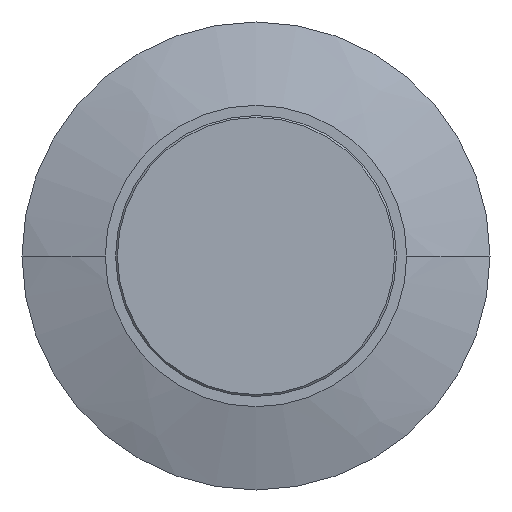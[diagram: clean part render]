
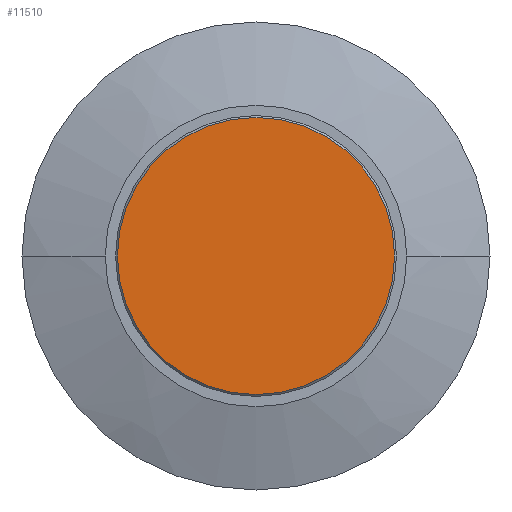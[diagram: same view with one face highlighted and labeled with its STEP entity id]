
A CAD part, left-side view. The second image highlights one B-rep face of the part: STEP entity #11510.
In plain terms, the highlighted planar face has unit normal (-1, 0, 0).
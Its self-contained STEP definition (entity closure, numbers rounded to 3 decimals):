
#11460=CARTESIAN_POINT('',(-18.21,0.,
0.));
#11461=DIRECTION('',(1.,0.,0.));
#11462=DIRECTION('',(0.,1.,0.));
#11463=AXIS2_PLACEMENT_3D('',#11460,#11461,#11462);
#11474=CARTESIAN_POINT('',(-18.21,0.,
0.));
#11475=DIRECTION('',(1.,0.,0.));
#11476=DIRECTION('',(0.,-1.,0.));
#11477=AXIS2_PLACEMENT_3D('',#11474,#11475,#11476);
#11495=CARTESIAN_POINT('',(-18.21,-7.4,0.));
#11496=CARTESIAN_POINT('',(-18.21,7.4,0.));
#11497=VERTEX_POINT('',#11495);
#11498=VERTEX_POINT('',#11496);
#11499=CARTESIAN_POINT('',(-18.21,0.,0.));
#11500=DIRECTION('',(1.,0.,0.));
#11501=DIRECTION('',(0.,-1.,0.));
#11502=AXIS2_PLACEMENT_3D('',#11499,#11500,#11501);
#11503=PLANE('',#11502);
#11505=ORIENTED_EDGE('',*,*,#11504,.T.);
#11507=ORIENTED_EDGE('',*,*,#11506,.T.);
#11508=EDGE_LOOP('',(#11505,#11507));
#11509=FACE_OUTER_BOUND('',#11508,.F.);
#11464=CIRCLE('',#11463,7.4);
#11478=CIRCLE('',#11477,7.4);
#11504=EDGE_CURVE('',#11497,#11498,#11478,.T.);
#11506=EDGE_CURVE('',#11498,#11497,#11464,.T.);
#11510=ADVANCED_FACE('',(#11509),#11503,.F.);
